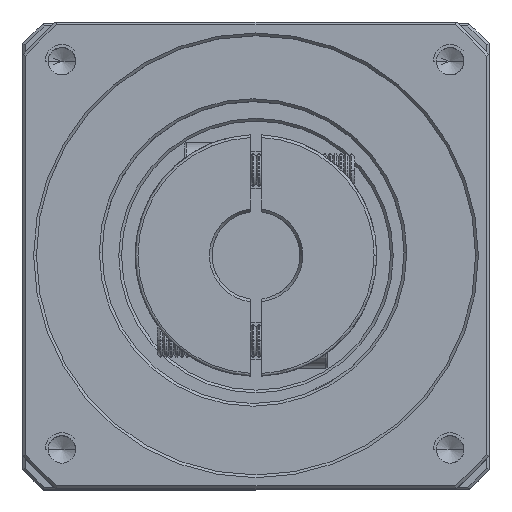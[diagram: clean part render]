
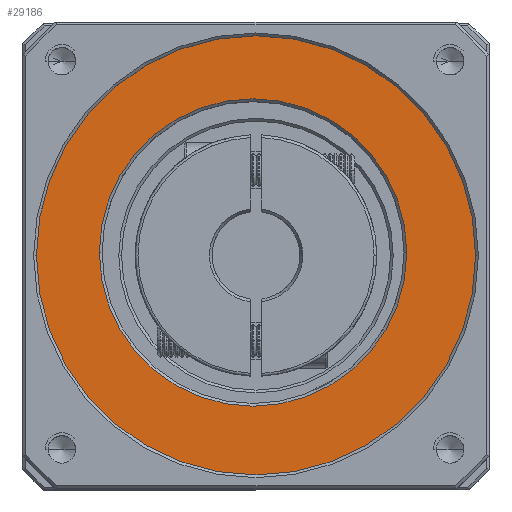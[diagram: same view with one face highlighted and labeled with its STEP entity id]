
A CAD part, top view. The second image highlights one B-rep face of the part: STEP entity #29186.
In plain terms, the highlighted planar face has unit normal (0, 0, 1).
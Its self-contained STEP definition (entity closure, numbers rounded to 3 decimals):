
#2197 = AXIS2_PLACEMENT_3D ( 'NONE', #62220, #32269, #43151 ) ;
#2454 = EDGE_LOOP ( 'NONE', ( #23142, #81633 ) ) ;
#3950 = DIRECTION ( 'NONE',  ( 1., 0., 0. ) ) ;
#7893 = CARTESIAN_POINT ( 'NONE',  ( -53.692, 42.906, 120.185 ) ) ;
#10743 = CIRCLE ( 'NONE', #54161, 40. ) ;
#11595 = CARTESIAN_POINT ( 'NONE',  ( -109.692, 42.906, 120.185 ) ) ;
#16759 = CIRCLE ( 'NONE', #2197, 28. ) ;
#22901 = FACE_BOUND ( 'NONE', #48241, .T. ) ;
#23142 = ORIENTED_EDGE ( 'NONE', *, *, #105326, .T. ) ;
#29186 = ADVANCED_FACE ( 'NONE', ( #123830, #22901 ), #123070, .T. ) ;
#32269 = DIRECTION ( 'NONE',  ( 0., 0., -1. ) ) ;
#35421 = ORIENTED_EDGE ( 'NONE', *, *, #116703, .T. ) ;
#37201 = CARTESIAN_POINT ( 'NONE',  ( -41.15, 42.371, 120.185 ) ) ;
#37504 = ORIENTED_EDGE ( 'NONE', *, *, #87378, .T. ) ;
#40620 = VERTEX_POINT ( 'NONE', #37201 ) ;
#42525 = EDGE_CURVE ( 'NONE', #95202, #40620, #10743, .T. ) ;
#43151 = DIRECTION ( 'NONE',  ( 1., 0., 0. ) ) ;
#43529 = CARTESIAN_POINT ( 'NONE',  ( -81.15, 42.371, 120.185 ) ) ;
#43726 = DIRECTION ( 'NONE',  ( 1., 0., 0. ) ) ;
#43943 = DIRECTION ( 'NONE',  ( 0., 0., 1. ) ) ;
#48241 = EDGE_LOOP ( 'NONE', ( #35421, #37504 ) ) ;
#52111 = DIRECTION ( 'NONE',  ( 1., 0., 0. ) ) ;
#54161 = AXIS2_PLACEMENT_3D ( 'NONE', #43529, #43943, #3950 ) ;
#57219 = AXIS2_PLACEMENT_3D ( 'NONE', #63642, #64083, #43726 ) ;
#62220 = CARTESIAN_POINT ( 'NONE',  ( -81.692, 42.906, 120.185 ) ) ;
#63642 = CARTESIAN_POINT ( 'NONE',  ( -81.15, 42.371, 120.185 ) ) ;
#63927 = VERTEX_POINT ( 'NONE', #7893 ) ;
#64083 = DIRECTION ( 'NONE',  ( 0., 0., 1. ) ) ;
#70078 = AXIS2_PLACEMENT_3D ( 'NONE', #123881, #113884, #93887 ) ;
#74875 = AXIS2_PLACEMENT_3D ( 'NONE', #118877, #91921, #52111 ) ;
#76641 = CIRCLE ( 'NONE', #74875, 28. ) ;
#81633 = ORIENTED_EDGE ( 'NONE', *, *, #42525, .T. ) ;
#87378 = EDGE_CURVE ( 'NONE', #107373, #63927, #76641, .T. ) ;
#91921 = DIRECTION ( 'NONE',  ( 0., 0., -1. ) ) ;
#93887 = DIRECTION ( 'NONE',  ( 1., 0., 0. ) ) ;
#95202 = VERTEX_POINT ( 'NONE', #109317 ) ;
#105326 = EDGE_CURVE ( 'NONE', #40620, #95202, #121255, .T. ) ;
#107373 = VERTEX_POINT ( 'NONE', #11595 ) ;
#109317 = CARTESIAN_POINT ( 'NONE',  ( -121.15, 42.371, 120.185 ) ) ;
#113884 = DIRECTION ( 'NONE',  ( 0., 0., 1. ) ) ;
#116703 = EDGE_CURVE ( 'NONE', #63927, #107373, #16759, .T. ) ;
#118877 = CARTESIAN_POINT ( 'NONE',  ( -81.692, 42.906, 120.185 ) ) ;
#121255 = CIRCLE ( 'NONE', #70078, 40. ) ;
#123070 = PLANE ( 'NONE',  #57219 ) ;
#123830 = FACE_OUTER_BOUND ( 'NONE', #2454, .T. ) ;
#123881 = CARTESIAN_POINT ( 'NONE',  ( -81.15, 42.371, 120.185 ) ) ;
